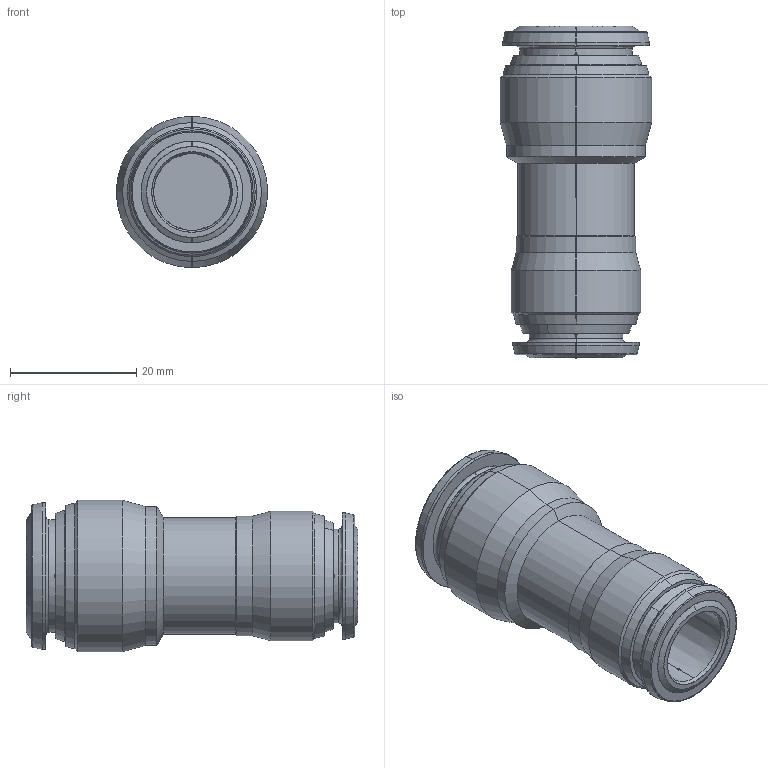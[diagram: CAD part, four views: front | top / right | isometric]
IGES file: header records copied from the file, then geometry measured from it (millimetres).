
Start section: SolidWorks IGES file using analytic representation for surfaces
Global section: file name: C:\Users\cad07\Desktop\ok step\step email\6004000012.IGS; native system: SolidWorks 2020; preprocessor: SolidWorks 2020; author: cad07; date: 220707.114913; units: millimetre
Bounding box: 24 x 52.6 x 24 mm (x, y, z)
Surface area: 6669.4 mm2 (no closed solid volume)
Topology: 0 solids, 0 shells, 102 faces, 1188 edges, 1188 vertices
Faces by surface type: revolution 58, bspline 44
